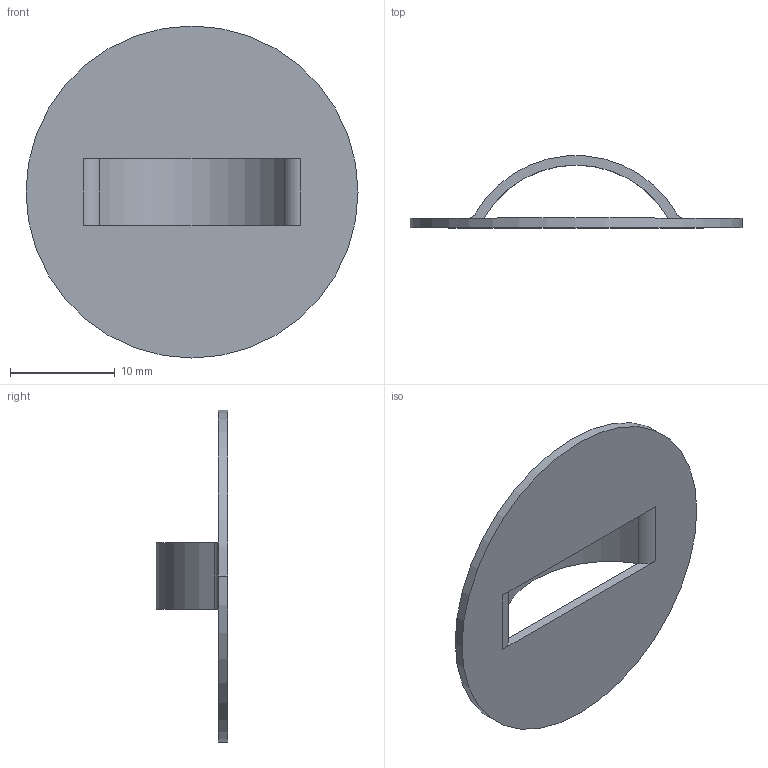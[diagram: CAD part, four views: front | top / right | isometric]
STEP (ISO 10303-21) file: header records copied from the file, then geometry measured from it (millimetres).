
FILE_DESCRIPTION (( 'STEP AP203' ), '1' );
FILE_NAME ('1008920-10 -RD BRIDGE LANCE SGL .250W X .200H X .038THK.STEP', '2024-11-18T17:19:37', ( '' ), ( '' ), 'SwSTEP 2.0', 'SolidWorks 2024', '' );
FILE_SCHEMA (( 'CONFIG_CONTROL_DESIGN' ));
Length unit declared in the file: inch
Products named in the file (1): 1008920-10 -RD BRIDGE LANCE SGL .250W X .200H X .038THK
Bounding box: 31.75 x 6.87 x 31.75 mm (x, y, z)
Volume: 749.3 mm3; surface area: 1805.8 mm2
Topology: 1 solids, 1 shells, 14 faces, 38 edges, 24 vertices
Faces by surface type: cylinder 8, plane 6
Entity records: 537 total; most frequent: DIRECTION 88, CARTESIAN_POINT 77, ORIENTED_EDGE 76, EDGE_CURVE 38, AXIS2_PLACEMENT_3D 35, VERTEX_POINT 24, CIRCLE 20, LINE 18
